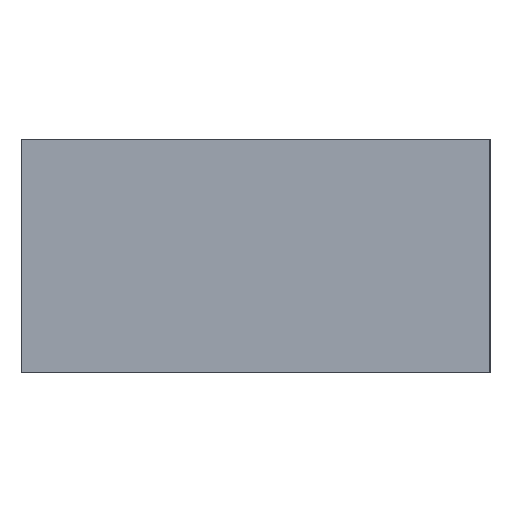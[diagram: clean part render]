
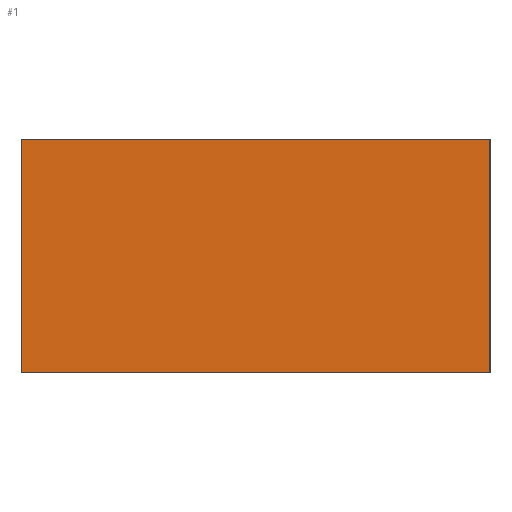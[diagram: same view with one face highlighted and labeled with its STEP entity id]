
A CAD part, left-side view. The second image highlights one B-rep face of the part: STEP entity #1.
In plain terms, the highlighted planar face has unit normal (-1, 0, 0).
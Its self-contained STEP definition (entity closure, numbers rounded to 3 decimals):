
#1 = ADVANCED_FACE ( 'NONE', ( #42 ), #110, .F. ) ;
#4 = DIRECTION ( 'NONE',  ( 0., 0., -1. ) ) ;
#5 = EDGE_LOOP ( 'NONE', ( #108, #203, #92, #201 ) ) ;
#17 = VECTOR ( 'NONE', #143, 1000. ) ;
#24 = LINE ( 'NONE', #27, #133 ) ;
#27 = CARTESIAN_POINT ( 'NONE',  ( -262., -24., 12. ) ) ;
#30 = EDGE_CURVE ( 'NONE', #204, #135, #95, .T. ) ;
#39 = AXIS2_PLACEMENT_3D ( 'NONE', #80, #65, #185 ) ;
#41 = LINE ( 'NONE', #163, #120 ) ;
#42 = FACE_OUTER_BOUND ( 'NONE', #5, .T. ) ;
#50 = DIRECTION ( 'NONE',  ( 0., -1., 0. ) ) ;
#52 = CARTESIAN_POINT ( 'NONE',  ( -262., 24., 12. ) ) ;
#65 = DIRECTION ( 'NONE',  ( 1., 0., 0. ) ) ;
#79 = DIRECTION ( 'NONE',  ( 0., 0., -1. ) ) ;
#80 = CARTESIAN_POINT ( 'NONE',  ( -262., -24., 12. ) ) ;
#90 = EDGE_CURVE ( 'NONE', #135, #166, #24, .T. ) ;
#92 = ORIENTED_EDGE ( 'NONE', *, *, #30, .F. ) ;
#95 = LINE ( 'NONE', #209, #17 ) ;
#96 = CARTESIAN_POINT ( 'NONE',  ( -262., -24., -12. ) ) ;
#108 = ORIENTED_EDGE ( 'NONE', *, *, #198, .T. ) ;
#109 = EDGE_CURVE ( 'NONE', #204, #210, #41, .T. ) ;
#110 = PLANE ( 'NONE',  #39 ) ;
#120 = VECTOR ( 'NONE', #4, 1000. ) ;
#128 = LINE ( 'NONE', #191, #172 ) ;
#131 = CARTESIAN_POINT ( 'NONE',  ( -262., 24., -12. ) ) ;
#133 = VECTOR ( 'NONE', #79, 1000. ) ;
#135 = VERTEX_POINT ( 'NONE', #208 ) ;
#143 = DIRECTION ( 'NONE',  ( 0., -1., 0. ) ) ;
#163 = CARTESIAN_POINT ( 'NONE',  ( -262., 24., 12. ) ) ;
#166 = VERTEX_POINT ( 'NONE', #96 ) ;
#172 = VECTOR ( 'NONE', #50, 1000. ) ;
#185 = DIRECTION ( 'NONE',  ( 0., 0., -1. ) ) ;
#191 = CARTESIAN_POINT ( 'NONE',  ( -262., -24., -12. ) ) ;
#198 = EDGE_CURVE ( 'NONE', #210, #166, #128, .T. ) ;
#201 = ORIENTED_EDGE ( 'NONE', *, *, #109, .T. ) ;
#203 = ORIENTED_EDGE ( 'NONE', *, *, #90, .F. ) ;
#204 = VERTEX_POINT ( 'NONE', #52 ) ;
#208 = CARTESIAN_POINT ( 'NONE',  ( -262., -24., 12. ) ) ;
#209 = CARTESIAN_POINT ( 'NONE',  ( -262., -24., 12. ) ) ;
#210 = VERTEX_POINT ( 'NONE', #131 ) ;
